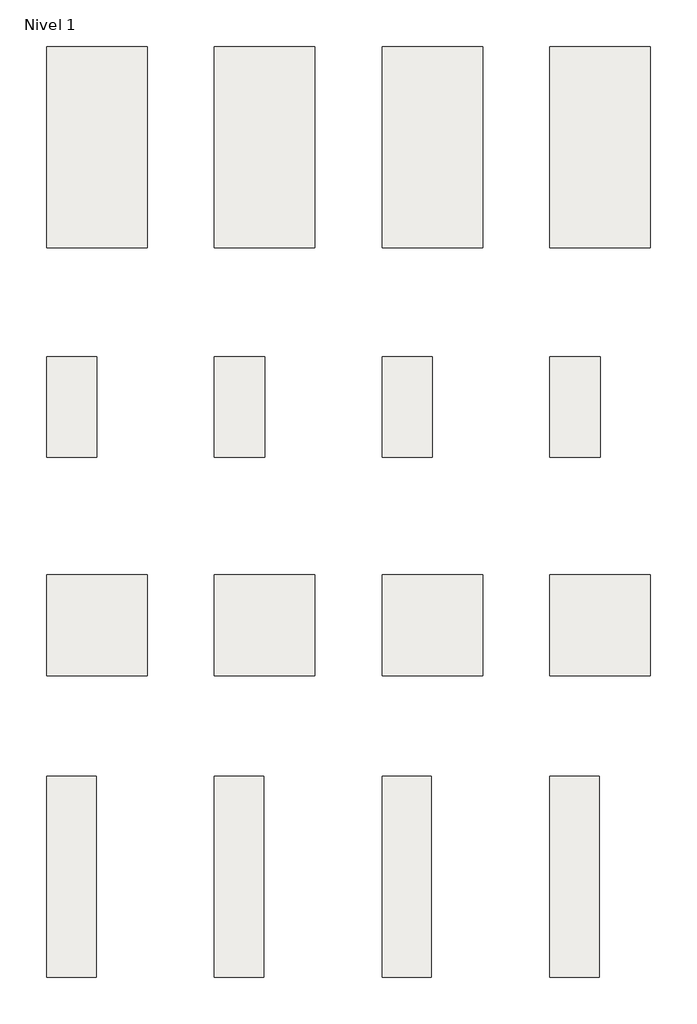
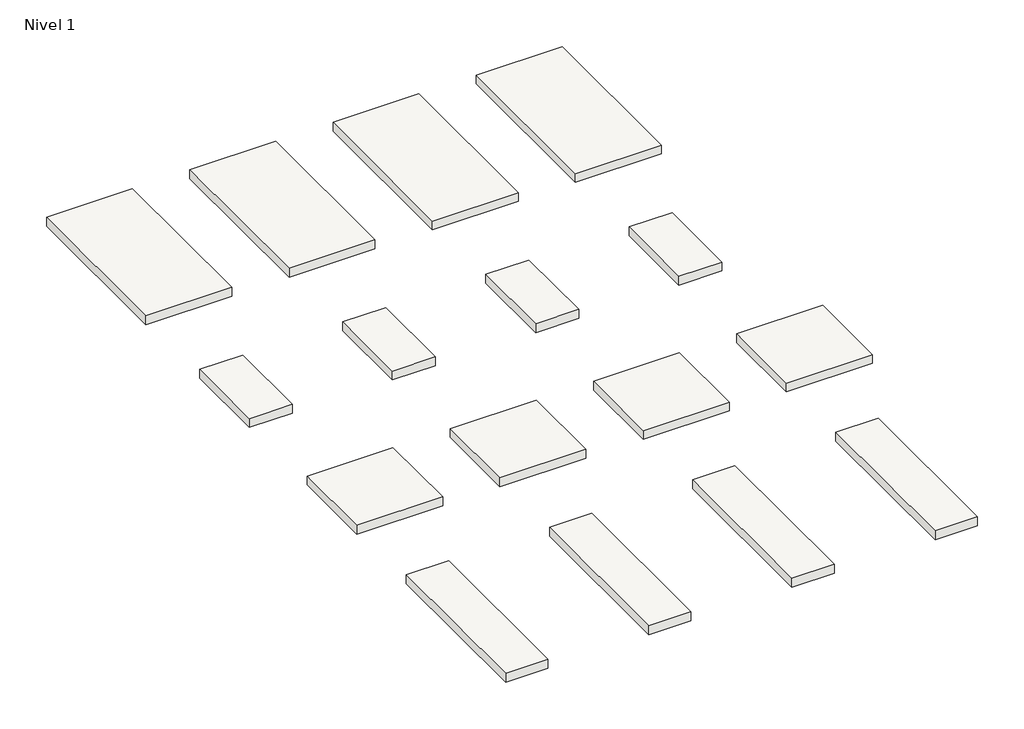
# One storey: 16 slabs.
"""IFC4 building model written with IfcOpenShell, lengths in millimetres."""

import ifcopenshell
import ifcopenshell.guid

model = None  # the IFC model being written
_history = None  # IfcOwnerHistory: only IFC2X3 demands one
_inside = {}  # id of a spatial element -> (the spatial element, [elements in it])
_under = {}  # id of a project, library or spatial element -> (it, [spatial elements below it])
_declared = {}  # id of a project -> (the project, [libraries it declares])
_typed = {}  # id of a type object -> (the type object, [elements of that type])
_made_of = {}  # id of a material, layer set ... -> (it, [elements and type objects made of it])


def new_model(schema):
    """Start an empty IFC model of exactly this schema.

    Asked for "IFC4X3", IfcOpenShell would pick the latest addendum, in which some entities
    have other attributes; the version numbers below select the first issue.
    IFC2X3 requires an IfcOwnerHistory on every rooted entity: one is made here for all.
    """
    global model, _history
    if schema == "IFC4X3":
        model = ifcopenshell.file(schema_version=(4, 3, 0, 0))
    else:
        model = ifcopenshell.file(schema=schema)
    _inside.clear()
    _under.clear()
    _declared.clear()
    _typed.clear()
    _made_of.clear()
    _history = None
    if model.schema == "IFC2X3":
        org = make("IfcOrganization", Name="unknown")
        user = make(
            "IfcPersonAndOrganization",
            ThePerson=make("IfcPerson", FamilyName="unknown"),
            TheOrganization=org,
        )
        app = make(
            "IfcApplication",
            ApplicationDeveloper=org,
            Version="unknown",
            ApplicationFullName="unknown",
            ApplicationIdentifier="unknown",
        )
        _history = make(
            "IfcOwnerHistory",
            OwningUser=user,
            OwningApplication=app,
            ChangeAction="ADDED",
            CreationDate=0,
        )
    return model


def make(cls, **values):
    """One entity of the class cls with the attributes given. An attribute that is None is left unset."""
    return model.create_entity(
        cls, **{name: value for name, value in values.items() if value is not None}
    )


def rooted(cls, **values):
    """An entity with a GlobalId (a new one), such as an element, a storey or a relation."""
    return make(cls, GlobalId=ifcopenshell.guid.new(), OwnerHistory=_history, **values)


def si_unit(unit_type, name, prefix=None):
    """IfcSIUnit, for example si_unit("LENGTHUNIT", "METRE", prefix="MILLI")."""
    return make("IfcSIUnit", UnitType=unit_type, Prefix=prefix, Name=name)


def assignment(units):
    """IfcUnitAssignment: the units of a project."""
    return None if units is None else make("IfcUnitAssignment", Units=units)


def point(xyz):
    """IfcCartesianPoint."""
    return None if xyz is None else make("IfcCartesianPoint", Coordinates=xyz)


def direction(xyz):
    """IfcDirection."""
    return None if xyz is None else make("IfcDirection", DirectionRatios=xyz)


def frame(location, z_axis=None, x_axis=None):
    """IfcAxis2Placement3D, a coordinate frame: its origin and axes. An axis left out is left unset."""
    return make(
        "IfcAxis2Placement3D",
        Location=point(location),
        Axis=direction(z_axis),
        RefDirection=direction(x_axis),
    )


def origin():
    """The frame at (0, 0, 0) with its axes left unset."""
    return frame((0.0, 0.0, 0.0))


def place(relative_to, where):
    """IfcLocalPlacement: puts the frame where relative to a parent placement (None: the world)."""
    return make(
        "IfcLocalPlacement", PlacementRelTo=relative_to, RelativePlacement=where
    )


def context(
    kind, dimensions, precision=None, world=None, true_north=None, identifier=None
):
    """IfcGeometricRepresentationContext, for example the 3D "Model" context."""
    return make(
        "IfcGeometricRepresentationContext",
        ContextIdentifier=identifier,
        ContextType=kind,
        CoordinateSpaceDimension=dimensions,
        Precision=precision,
        WorldCoordinateSystem=world,
        TrueNorth=true_north,
    )


def project(units=None, contexts=None):
    """IfcProject with its units and contexts."""
    return rooted(
        "IfcProject",
        Name="project",
        RepresentationContexts=contexts,
        UnitsInContext=assignment(units),
    )


def spatial(cls, under=None, at=None, **own):
    """A site, building, storey or space (cls), placed at a placement, below another one or the project."""
    s = rooted(cls, ObjectPlacement=at, **own)
    if under is not None:
        _under.setdefault(under.id(), (under, []))[1].append(s)
    return s


def polyline(points):
    """IfcPolyline through the points."""
    return make("IfcPolyline", Points=[point(p) for p in points])


def outline(outer, holes=None, kind="AREA"):
    """IfcArbitraryClosedProfileDef: a profile drawn as a closed curve; with holes, ...WithVoids."""
    if holes is None:
        return make("IfcArbitraryClosedProfileDef", ProfileType=kind, OuterCurve=outer)
    return make(
        "IfcArbitraryProfileDefWithVoids",
        ProfileType=kind,
        OuterCurve=outer,
        InnerCurves=holes,
    )


def extrude(swept, where, along, depth):
    """IfcExtrudedAreaSolid: the profile swept, set in the frame where, extruded along a direction by depth."""
    return make(
        "IfcExtrudedAreaSolid",
        SweptArea=swept,
        Position=where,
        ExtrudedDirection=direction(along),
        Depth=depth,
    )


def shape(context_of_items, identifier, shape_type, items):
    """IfcShapeRepresentation: the items that make up one representation, for example the "Body"."""
    return make(
        "IfcShapeRepresentation",
        ContextOfItems=context_of_items,
        RepresentationIdentifier=identifier,
        RepresentationType=shape_type,
        Items=items,
    )


def made_of(thing, what):
    """Note that an element or type object is made of a material, layer set ...; save() writes the relation."""
    if what is not None:
        _made_of.setdefault(what.id(), (what, []))[1].append(thing)
    return thing


def element(
    cls,
    number,
    at=None,
    inside=None,
    cuts=None,
    type_object=None,
    material=None,
    context=None,
    identifier="Body",
    shape_type=None,
    held_by="IfcProductDefinitionShape",
    body=None,
    shapes=None,
    **own,
):
    """One element of the class cls, such as IfcWall. Its Tag is "e" and its number.

    at: its placement. inside: the storey or other place that contains it. cuts: it is an
    opening in that element (IfcRelVoidsElement). A single representation is given by context,
    identifier, shape_type and body (its items); several are given by shapes. held_by: the class
    of the entity that holds the representations. save() writes the other relations.
    """
    e = rooted(cls, Tag="e%d" % number, ObjectPlacement=at, **own)
    if body is not None:
        shapes = [shape(context, identifier, shape_type, body)]
    if shapes is not None:
        e.Representation = make(held_by, Representations=shapes)
    if inside is not None:
        _inside.setdefault(inside.id(), (inside, []))[1].append(e)
    if cuts is not None:
        rooted(
            "IfcRelVoidsElement", RelatingBuildingElement=cuts, RelatedOpeningElement=e
        )
    if type_object is not None:
        _typed.setdefault(type_object.id(), (type_object, []))[1].append(e)
    return made_of(e, material)


def aggregate(whole, parts):
    """IfcRelAggregates: a whole, such as a stair, and the parts it consists of."""
    return rooted("IfcRelAggregates", RelatingObject=whole, RelatedObjects=parts)


def save(model, path):
    """Write the relations noted so far, then the file.

    IfcRelAggregates (storeys below a building ...), IfcRelContainedInSpatialStructure (elements
    in a storey), IfcRelDefinesByType, IfcRelAssociatesMaterial and IfcRelDeclares: one each for
    every whole, place, type object, material and project.
    """
    for whole, parts in _under.values():
        aggregate(whole, parts)
    for where, things in _inside.values():
        rooted(
            "IfcRelContainedInSpatialStructure",
            RelatedElements=things,
            RelatingStructure=where,
        )
    for kind, things in _typed.values():
        rooted("IfcRelDefinesByType", RelatedObjects=things, RelatingType=kind)
    for what, things in _made_of.values():
        rooted("IfcRelAssociatesMaterial", RelatedObjects=things, RelatingMaterial=what)
    for by, libraries in _declared.values():
        rooted("IfcRelDeclares", RelatingContext=by, RelatedDefinitions=libraries)
    model.write(path)


model = new_model("IFC4")

# Units and contexts
model_context = context("Model", 3, world=origin())
ifc_project = project(units=[si_unit("LENGTHUNIT", "METRE", prefix="MILLI")], contexts=[model_context])

# Site, building, storey
site = spatial("IfcSite", under=ifc_project)
building = spatial("IfcBuilding", under=site)
storey = spatial("IfcBuildingStorey", under=building, Name="Nivel 1", Elevation=0.0)

# Slabs
placement = place(None, origin())
element("IfcSlab", 1, ObjectType="Niza Antracita 60X120", at=placement, inside=storey, context=model_context, shape_type="SweptSolid", body=[
    extrude(outline(polyline([(0.0, 1200.0), (600.0, 1200.0), (600.0, 0.0), (0.0, 0.0), (0.0, 1200.0)])), frame((0.0, 0.0, -65.0), z_axis=(0.0, 0.0, 1.0), x_axis=(1.0, 0.0, 0.0)), (0.0, 0.0, 1.0), 65.0),
])
element("IfcSlab", 2, ObjectType="Niza Arena 60X120", at=placement, inside=storey, context=model_context, shape_type="SweptSolid", body=[
    extrude(outline(polyline([(1000.0, 1200.0), (1600.0, 1200.0), (1600.0, 0.0), (1000.0, 0.0), (1000.0, 1200.0)])), frame((0.0, 0.0, -65.0), z_axis=(0.0, 0.0, 1.0), x_axis=(1.0, 0.0, 0.0)), (0.0, 0.0, 1.0), 65.0),
])
element("IfcSlab", 3, ObjectType="Niza Blanco 60X120", at=placement, inside=storey, context=model_context, shape_type="SweptSolid", body=[
    extrude(outline(polyline([(2000.0, 1200.0), (2600.0, 1200.0), (2600.0, 0.0), (2000.0, 0.0), (2000.0, 1200.0)])), frame((0.0, 0.0, -65.0), z_axis=(0.0, 0.0, 1.0), x_axis=(1.0, 0.0, 0.0)), (0.0, 0.0, 1.0), 65.0),
])
element("IfcSlab", 4, ObjectType="Niza Gris 60X120", at=placement, inside=storey, context=model_context, shape_type="SweptSolid", body=[
    extrude(outline(polyline([(3000.0, 1200.0), (3600.0, 1200.0), (3600.0, 0.0), (3000.0, 0.0), (3000.0, 1200.0)])), frame((0.0, 0.0, -65.0), z_axis=(0.0, 0.0, 1.0), x_axis=(1.0, 0.0, 0.0)), (0.0, 0.0, 1.0), 65.0),
])
element("IfcSlab", 5, ObjectType="Niza Antracita 30X60", at=placement, inside=storey, context=model_context, shape_type="SweptSolid", body=[
    extrude(outline(polyline([(0.0, -650.0), (300.0, -650.0), (300.0, -1250.0), (0.0, -1250.0), (0.0, -650.0)])), frame((0.0, 0.0, -65.0), z_axis=(0.0, 0.0, 1.0), x_axis=(1.0, 0.0, 0.0)), (0.0, 0.0, 1.0), 65.0),
])
element("IfcSlab", 6, ObjectType="Niza Arena 30X60", at=placement, inside=storey, context=model_context, shape_type="SweptSolid", body=[
    extrude(outline(polyline([(1000.0, -650.0), (1300.0, -650.0), (1300.0, -1250.0), (1000.0, -1250.0), (1000.0, -650.0)])), frame((0.0, 0.0, -65.0), z_axis=(0.0, 0.0, 1.0), x_axis=(1.0, 0.0, 0.0)), (0.0, 0.0, 1.0), 65.0),
])
element("IfcSlab", 7, ObjectType="Niza Blanco 30X60", at=placement, inside=storey, context=model_context, shape_type="SweptSolid", body=[
    extrude(outline(polyline([(2000.0, -650.0), (2300.0, -650.0), (2300.0, -1250.0), (2000.0, -1250.0), (2000.0, -650.0)])), frame((0.0, 0.0, -65.0), z_axis=(0.0, 0.0, 1.0), x_axis=(1.0, 0.0, 0.0)), (0.0, 0.0, 1.0), 65.0),
])
element("IfcSlab", 8, ObjectType="Niza Gris 30X60", at=placement, inside=storey, context=model_context, shape_type="SweptSolid", body=[
    extrude(outline(polyline([(3000.0, -650.0), (3300.0, -650.0), (3300.0, -1250.0), (3000.0, -1250.0), (3000.0, -650.0)])), frame((0.0, 0.0, -65.0), z_axis=(0.0, 0.0, 1.0), x_axis=(1.0, 0.0, 0.0)), (0.0, 0.0, 1.0), 65.0),
])
element("IfcSlab", 9, ObjectType="Niza Antracita 60X60", at=placement, inside=storey, context=model_context, shape_type="SweptSolid", body=[
    extrude(outline(polyline([(0.0, -1950.0), (600.0, -1950.0), (600.0, -2550.0), (0.0, -2550.0), (0.0, -1950.0)])), frame((0.0, 0.0, -65.0), z_axis=(0.0, 0.0, 1.0), x_axis=(1.0, 0.0, 0.0)), (0.0, 0.0, 1.0), 65.0),
])
element("IfcSlab", 10, ObjectType="Niza Arena 60X60", at=placement, inside=storey, context=model_context, shape_type="SweptSolid", body=[
    extrude(outline(polyline([(1000.0, -1950.0), (1600.0, -1950.0), (1600.0, -2550.0), (1000.0, -2550.0), (1000.0, -1950.0)])), frame((0.0, 0.0, -65.0), z_axis=(0.0, 0.0, 1.0), x_axis=(1.0, 0.0, 0.0)), (0.0, 0.0, 1.0), 65.0),
])
element("IfcSlab", 11, ObjectType="Niza Blanco 60X60", at=placement, inside=storey, context=model_context, shape_type="SweptSolid", body=[
    extrude(outline(polyline([(2000.0, -1950.0), (2600.0, -1950.0), (2600.0, -2550.0), (2000.0, -2550.0), (2000.0, -1950.0)])), frame((0.0, 0.0, -65.0), z_axis=(0.0, 0.0, 1.0), x_axis=(1.0, 0.0, 0.0)), (0.0, 0.0, 1.0), 65.0),
])
element("IfcSlab", 12, ObjectType="Niza Gris 60X60", at=placement, inside=storey, context=model_context, shape_type="SweptSolid", body=[
    extrude(outline(polyline([(3000.0, -1950.0), (3600.0, -1950.0), (3600.0, -2550.0), (3000.0, -2550.0), (3000.0, -1950.0)])), frame((0.0, 0.0, -65.0), z_axis=(0.0, 0.0, 1.0), x_axis=(1.0, 0.0, 0.0)), (0.0, 0.0, 1.0), 65.0),
])
element("IfcSlab", 13, ObjectType="Niza Antracita 29,5X120", at=placement, inside=storey, context=model_context, shape_type="SweptSolid", body=[
    extrude(outline(polyline([(0.0, -3150.0), (295.0, -3150.0), (295.0, -4350.0), (0.0, -4350.0), (0.0, -3150.0)])), frame((0.0, 0.0, -66.3), z_axis=(0.0, 0.0, 1.0), x_axis=(1.0, 0.0, 0.0)), (0.0, 0.0, 1.0), 66.3),
])
element("IfcSlab", 14, ObjectType="Niza Arena 29,5X120", at=placement, inside=storey, context=model_context, shape_type="SweptSolid", body=[
    extrude(outline(polyline([(1000.0, -3150.0), (1295.0, -3150.0), (1295.0, -4350.0), (1000.0, -4350.0), (1000.0, -3150.0)])), frame((0.0, 0.0, -66.3), z_axis=(0.0, 0.0, 1.0), x_axis=(1.0, 0.0, 0.0)), (0.0, 0.0, 1.0), 66.3),
])
element("IfcSlab", 15, ObjectType="Niza Blanco 29,5X120", at=placement, inside=storey, context=model_context, shape_type="SweptSolid", body=[
    extrude(outline(polyline([(2000.0, -3150.0), (2295.0, -3150.0), (2295.0, -4350.0), (2000.0, -4350.0), (2000.0, -3150.0)])), frame((0.0, 0.0, -66.3), z_axis=(0.0, 0.0, 1.0), x_axis=(1.0, 0.0, 0.0)), (0.0, 0.0, 1.0), 66.3),
])
element("IfcSlab", 16, ObjectType="Niza Gris 29,5X120", at=placement, inside=storey, context=model_context, shape_type="SweptSolid", body=[
    extrude(outline(polyline([(3000.0, -3150.0), (3295.0, -3150.0), (3295.0, -4350.0), (3000.0, -4350.0), (3000.0, -3150.0)])), frame((0.0, 0.0, -66.3), z_axis=(0.0, 0.0, 1.0), x_axis=(1.0, 0.0, 0.0)), (0.0, 0.0, 1.0), 66.3),
])

save(model, "model.ifc")
